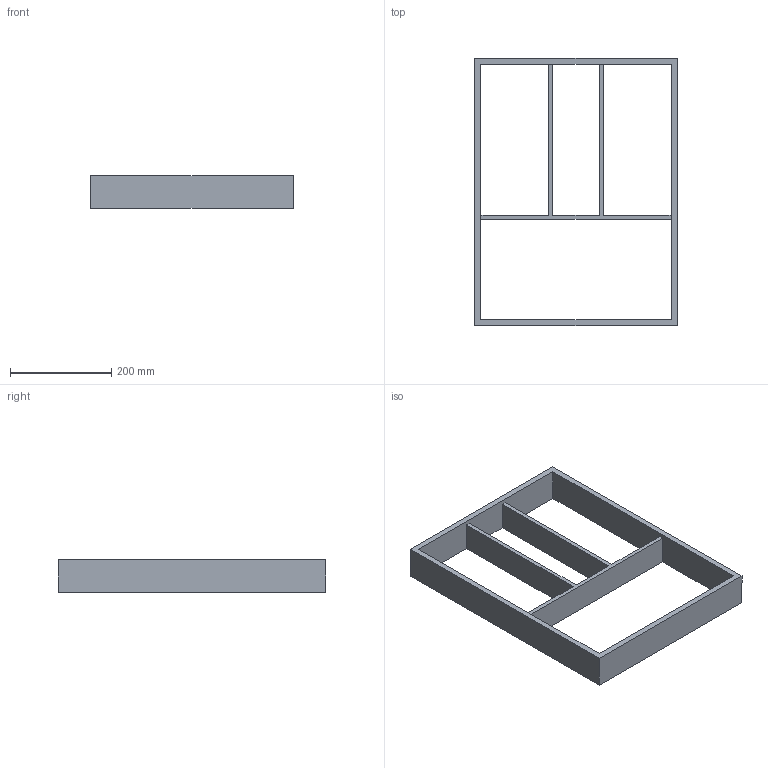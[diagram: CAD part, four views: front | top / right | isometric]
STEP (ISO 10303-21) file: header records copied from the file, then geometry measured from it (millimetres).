
FILE_DESCRIPTION (( 'STEP AP214' ), '1' );
FILE_NAME ('Vario Multi NL550_ZE400_16 mm_Buche.step', '2010-10-07T06:24:23', ( 'grass' ), ( '' ), 'SwSTEP 2.0', 'SolidWorks 2010', '' );
FILE_SCHEMA (( 'AUTOMOTIVE_DESIGN' ));
Length unit declared in the file: millimetre
Products named in the file (1): Vario Multi NL550_ZE400_16 mm_Buche
Bounding box: 400 x 529 x 65 mm (x, y, z)
Volume: 1855761.6 mm3; surface area: 402572 mm2
Topology: 1 solids, 1 shells, 19 faces, 60 edges, 40 vertices
Faces by surface type: plane 19
Entity records: 704 total; most frequent: ORIENTED_EDGE 120, CARTESIAN_POINT 120, DIRECTION 100, EDGE_CURVE 60, LINE 60, VECTOR 60, VERTEX_POINT 40, EDGE_LOOP 24
